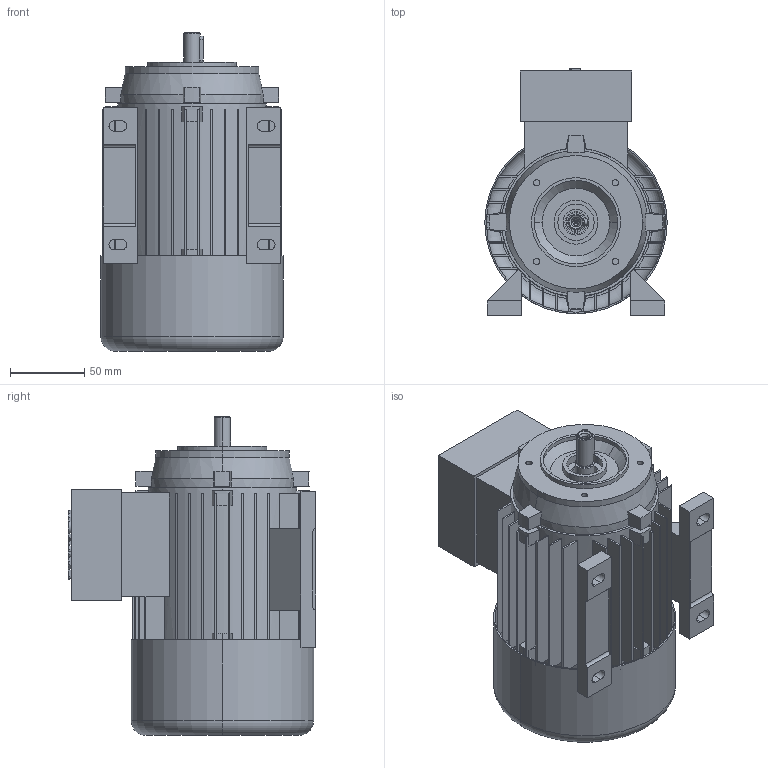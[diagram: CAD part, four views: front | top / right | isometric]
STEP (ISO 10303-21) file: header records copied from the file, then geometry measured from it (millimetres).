
FILE_DESCRIPTION (( 'STEP AP214' ), '1' );
FILE_NAME ('20.18268-E 5AZ 63 B34 STANDK.STEP', '2018-07-16T09:19:06', ( '' ), ( '' ), 'SwSTEP 2.0', 'SolidWorks 2018', '' );
FILE_SCHEMA (( 'AUTOMOTIVE_DESIGN' ));
Length unit declared in the file: millimetre
Products named in the file (1): 20.18268-E 5AZ 63 B34 STANDK
Bounding box: 123 x 167 x 215 mm (x, y, z)
Volume: 727084.2 mm3; surface area: 322389.7 mm2
Topology: 7 solids, 7 shells, 542 faces, 1408 edges, 927 vertices
Faces by surface type: plane 354, cylinder 145, cone 30, bspline 9, torus 4
Entity records: 16947 total; most frequent: CARTESIAN_POINT 3125, DIRECTION 2890, ORIENTED_EDGE 2812, EDGE_CURVE 1406, AXIS2_PLACEMENT_3D 996, VERTEX_POINT 927, VECTOR 898, LINE 898
